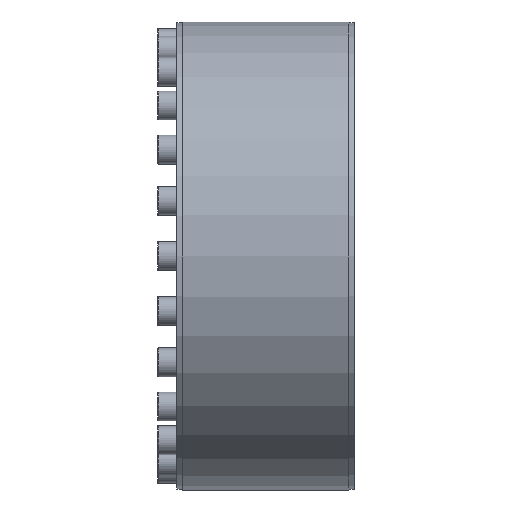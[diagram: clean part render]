
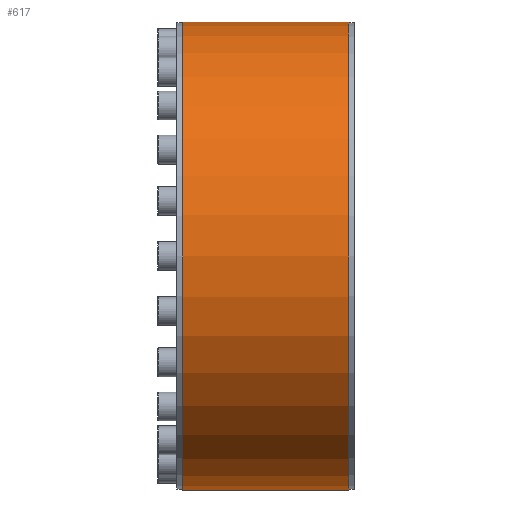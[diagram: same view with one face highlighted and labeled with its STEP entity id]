
A CAD part, left-side view. The second image highlights one B-rep face of the part: STEP entity #617.
In plain terms, the highlighted cylindrical face has radius 267.5 mm (diameter 535 mm), a partial arc.
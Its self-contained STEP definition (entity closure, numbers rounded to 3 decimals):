
#95 = CARTESIAN_POINT ( 'NONE',  ( 0., -95., -267.5 ) ) ;
#387 = CARTESIAN_POINT ( 'NONE',  ( 0., 0., 267.5 ) ) ;
#617 = ADVANCED_FACE ( 'NONE', ( #1900 ), #6030, .T. ) ;
#1010 = VERTEX_POINT ( 'NONE', #7358 ) ;
#1293 = VECTOR ( 'NONE', #6467, 1000. ) ;
#1471 = EDGE_CURVE ( 'NONE', #4982, #1010, #3875, .T. ) ;
#1606 = EDGE_CURVE ( 'NONE', #6434, #8479, #4986, .T. ) ;
#1885 = AXIS2_PLACEMENT_3D ( 'NONE', #4790, #4732, #7991 ) ;
#1900 = FACE_OUTER_BOUND ( 'NONE', #5562, .T. ) ;
#2025 = DIRECTION ( 'NONE',  ( 0., -1., 0. ) ) ;
#2035 = ORIENTED_EDGE ( 'NONE', *, *, #1606, .F. ) ;
#2082 = ORIENTED_EDGE ( 'NONE', *, *, #5585, .F. ) ;
#2249 = ORIENTED_EDGE ( 'NONE', *, *, #1471, .T. ) ;
#2422 = VECTOR ( 'NONE', #3056, 1000. ) ;
#2955 = DIRECTION ( 'NONE',  ( 0., -1., 0. ) ) ;
#2973 = CARTESIAN_POINT ( 'NONE',  ( 0., -95., 267.5 ) ) ;
#3056 = DIRECTION ( 'NONE',  ( 0., -1., 0. ) ) ;
#3668 = AXIS2_PLACEMENT_3D ( 'NONE', #7513, #2955, #5474 ) ;
#3822 = EDGE_CURVE ( 'NONE', #1010, #8479, #4723, .T. ) ;
#3873 = CARTESIAN_POINT ( 'NONE',  ( 0., 0., 0. ) ) ;
#3875 = CIRCLE ( 'NONE', #1885, 267.5 ) ;
#3885 = LINE ( 'NONE', #387, #2422 ) ;
#4108 = ORIENTED_EDGE ( 'NONE', *, *, #3822, .T. ) ;
#4723 = LINE ( 'NONE', #5682, #1293 ) ;
#4732 = DIRECTION ( 'NONE',  ( 0., -1., 0. ) ) ;
#4757 = AXIS2_PLACEMENT_3D ( 'NONE', #3873, #2025, #6644 ) ;
#4790 = CARTESIAN_POINT ( 'NONE',  ( 0., 95., 0. ) ) ;
#4982 = VERTEX_POINT ( 'NONE', #8224 ) ;
#4986 = CIRCLE ( 'NONE', #3668, 267.5 ) ;
#5474 = DIRECTION ( 'NONE',  ( 0., 0., -1. ) ) ;
#5562 = EDGE_LOOP ( 'NONE', ( #2082, #2249, #4108, #2035 ) ) ;
#5585 = EDGE_CURVE ( 'NONE', #4982, #6434, #3885, .T. ) ;
#5682 = CARTESIAN_POINT ( 'NONE',  ( 0., 0., -267.5 ) ) ;
#6030 = CYLINDRICAL_SURFACE ( 'NONE', #4757, 267.5 ) ;
#6434 = VERTEX_POINT ( 'NONE', #2973 ) ;
#6467 = DIRECTION ( 'NONE',  ( 0., -1., 0. ) ) ;
#6644 = DIRECTION ( 'NONE',  ( 0., 0., -1. ) ) ;
#7358 = CARTESIAN_POINT ( 'NONE',  ( 0., 95., -267.5 ) ) ;
#7513 = CARTESIAN_POINT ( 'NONE',  ( 0., -95., 0. ) ) ;
#7991 = DIRECTION ( 'NONE',  ( 0., 0., -1. ) ) ;
#8224 = CARTESIAN_POINT ( 'NONE',  ( 0., 95., 267.5 ) ) ;
#8479 = VERTEX_POINT ( 'NONE', #95 ) ;
